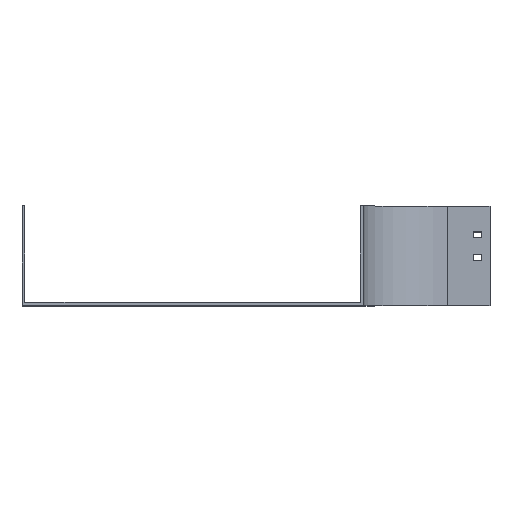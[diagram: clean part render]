
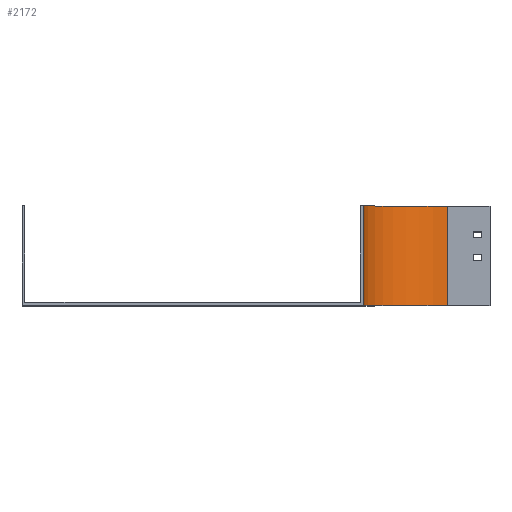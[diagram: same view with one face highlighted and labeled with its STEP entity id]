
A CAD part, top view. The second image highlights one B-rep face of the part: STEP entity #2172.
In plain terms, the highlighted cylindrical face has radius 100 mm (diameter 200 mm), a partial arc.
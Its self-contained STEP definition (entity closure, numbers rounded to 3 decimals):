
#5 = CARTESIAN_POINT ( 'NONE',  ( -100., 0., 0. ) ) ;
#13 = EDGE_CURVE ( 'NONE', #399, #65, #1286, .T. ) ;
#43 = ORIENTED_EDGE ( 'NONE', *, *, #13, .F. ) ;
#65 = VERTEX_POINT ( 'NONE', #709 ) ;
#224 = ORIENTED_EDGE ( 'NONE', *, *, #1772, .F. ) ;
#229 = DIRECTION ( 'NONE',  ( 0., 0., -1. ) ) ;
#280 = DIRECTION ( 'NONE',  ( 0., -1., 0. ) ) ;
#318 = EDGE_CURVE ( 'NONE', #2260, #2720, #1974, .T. ) ;
#399 = VERTEX_POINT ( 'NONE', #1101 ) ;
#614 = DIRECTION ( 'NONE',  ( 0., 0., -1. ) ) ;
#641 = VECTOR ( 'NONE', #2692, 1000. ) ;
#668 = CARTESIAN_POINT ( 'NONE',  ( 0., 117.5, 0. ) ) ;
#703 = DIRECTION ( 'NONE',  ( 0., 0., -1. ) ) ;
#709 = CARTESIAN_POINT ( 'NONE',  ( 0., 117.5, -100. ) ) ;
#732 = EDGE_CURVE ( 'NONE', #399, #2260, #1860, .T. ) ;
#802 = AXIS2_PLACEMENT_3D ( 'NONE', #668, #1494, #229 ) ;
#897 = CARTESIAN_POINT ( 'NONE',  ( 0., 0., -100. ) ) ;
#947 = CARTESIAN_POINT ( 'NONE',  ( 0., 117.5, -100. ) ) ;
#1024 = CARTESIAN_POINT ( 'NONE',  ( 0., 0., 0. ) ) ;
#1051 = DIRECTION ( 'NONE',  ( 0., -1., 0. ) ) ;
#1101 = CARTESIAN_POINT ( 'NONE',  ( -100., 117.5, 0. ) ) ;
#1128 = ORIENTED_EDGE ( 'NONE', *, *, #732, .T. ) ;
#1139 = EDGE_LOOP ( 'NONE', ( #1813, #224, #43, #1128 ) ) ;
#1286 = CIRCLE ( 'NONE', #802, 100. ) ;
#1302 = CARTESIAN_POINT ( 'NONE',  ( 0., 117.5, 0. ) ) ;
#1464 = AXIS2_PLACEMENT_3D ( 'NONE', #1024, #1051, #614 ) ;
#1494 = DIRECTION ( 'NONE',  ( 0., -1., 0. ) ) ;
#1658 = CARTESIAN_POINT ( 'NONE',  ( -100., 117.5, 0. ) ) ;
#1772 = EDGE_CURVE ( 'NONE', #65, #2720, #2013, .T. ) ;
#1813 = ORIENTED_EDGE ( 'NONE', *, *, #318, .T. ) ;
#1860 = LINE ( 'NONE', #1658, #641 ) ;
#1863 = DIRECTION ( 'NONE',  ( 0., -1., 0. ) ) ;
#1974 = CIRCLE ( 'NONE', #1464, 100. ) ;
#1993 = CYLINDRICAL_SURFACE ( 'NONE', #2726, 100. ) ;
#2013 = LINE ( 'NONE', #947, #2628 ) ;
#2172 = ADVANCED_FACE ( 'NONE', ( #2615 ), #1993, .F. ) ;
#2260 = VERTEX_POINT ( 'NONE', #5 ) ;
#2615 = FACE_OUTER_BOUND ( 'NONE', #1139, .T. ) ;
#2628 = VECTOR ( 'NONE', #1863, 1000. ) ;
#2692 = DIRECTION ( 'NONE',  ( 0., -1., 0. ) ) ;
#2720 = VERTEX_POINT ( 'NONE', #897 ) ;
#2726 = AXIS2_PLACEMENT_3D ( 'NONE', #1302, #280, #703 ) ;
